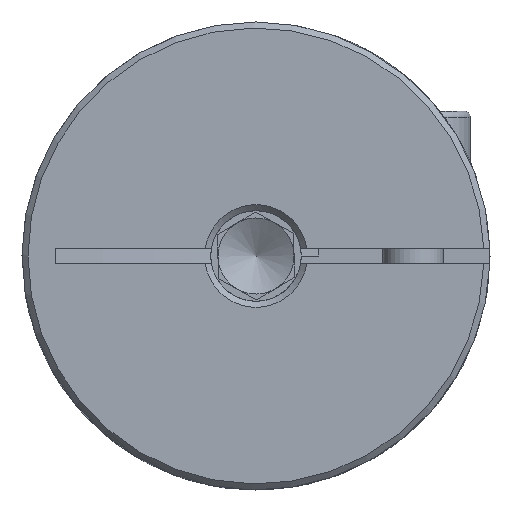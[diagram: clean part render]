
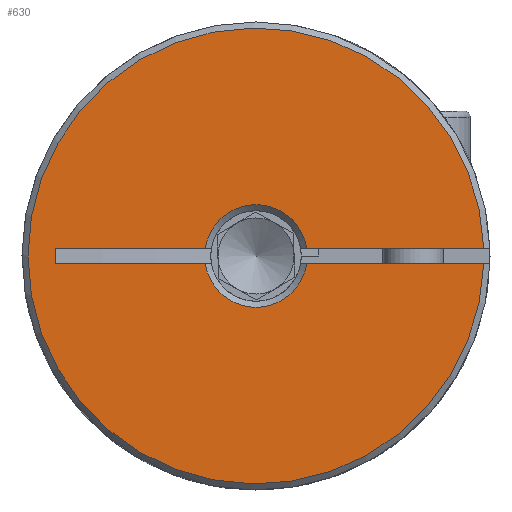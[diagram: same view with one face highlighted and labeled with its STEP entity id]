
A CAD part, left-side view. The second image highlights one B-rep face of the part: STEP entity #630.
In plain terms, the highlighted planar face has unit normal (-1, 0, 0).
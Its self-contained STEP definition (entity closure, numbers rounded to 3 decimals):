
#630 = ADVANCED_FACE( 'NONE', ( #1343 ), #1344, .F. );
#1343 = FACE_OUTER_BOUND( '', #2031, .T. );
#1344 = PLANE( '', #2032 );
#2031 = EDGE_LOOP( '', ( #3202, #3203, #3204, #3205, #3206, #3207, #3208, #3209 ) );
#2032 = AXIS2_PLACEMENT_3D( '', #3210, #3211, #3212 );
#3202 = ORIENTED_EDGE( '', *, *, #3581, .T. );
#3203 = ORIENTED_EDGE( '', *, *, #3482, .T. );
#3204 = ORIENTED_EDGE( '', *, *, #3627, .T. );
#3205 = ORIENTED_EDGE( '', *, *, #3252, .T. );
#3206 = ORIENTED_EDGE( '', *, *, #3437, .F. );
#3207 = ORIENTED_EDGE( '', *, *, #3309, .T. );
#3208 = ORIENTED_EDGE( '', *, *, #3605, .F. );
#3209 = ORIENTED_EDGE( '', *, *, #3546, .T. );
#3210 = CARTESIAN_POINT( '', ( 0., 1.5, 0. ) );
#3211 = DIRECTION( '', ( 1., 0., 0. ) );
#3212 = DIRECTION( '', ( 0., 1., 0. ) );
#3252 = EDGE_CURVE( 'NONE', #3690, #3688, #3691, .T. );
#3309 = EDGE_CURVE( 'NONE', #3783, #3780, #3784, .T. );
#3437 = EDGE_CURVE( 'NONE', #3783, #3688, #3979, .T. );
#3482 = EDGE_CURVE( 'NONE', #4046, #4044, #4047, .T. );
#3546 = EDGE_CURVE( 'NONE', #4129, #4131, #4133, .T. );
#3581 = EDGE_CURVE( 'NONE', #4131, #4046, #4177, .T. );
#3605 = EDGE_CURVE( 'NONE', #4129, #3780, #4206, .T. );
#3627 = EDGE_CURVE( 'NONE', #4044, #3690, #4232, .T. );
#3688 = VERTEX_POINT( 'NONE', #4297 );
#3690 = VERTEX_POINT( 'NONE', #4300 );
#3691 = CIRCLE( '', #4301, 7.55 );
#3780 = VERTEX_POINT( 'NONE', #4409 );
#3783 = VERTEX_POINT( 'NONE', #4412 );
#3784 = CIRCLE( '', #4413, 1.7 );
#3979 = LINE( '', #4632, #4633 );
#4044 = VERTEX_POINT( 'NONE', #4707 );
#4046 = VERTEX_POINT( 'NONE', #4709 );
#4047 = CIRCLE( '', #4710, 1.7 );
#4129 = VERTEX_POINT( 'NONE', #4887 );
#4131 = VERTEX_POINT( 'NONE', #4889 );
#4133 = LINE( '', #4891, #4892 );
#4177 = LINE( '', #4942, #4943 );
#4206 = LINE( '', #4973, #4974 );
#4232 = LINE( '', #5001, #5002 );
#4297 = CARTESIAN_POINT( '', ( 0., -7.546, -0.25 ) );
#4300 = CARTESIAN_POINT( '', ( 0., -7.546, 0.25 ) );
#4301 = AXIS2_PLACEMENT_3D( '', #5064, #5065, #5066 );
#4409 = CARTESIAN_POINT( '', ( 0., 1.682, -0.25 ) );
#4412 = CARTESIAN_POINT( '', ( 0., -1.682, -0.25 ) );
#4413 = AXIS2_PLACEMENT_3D( '', #5149, #5150, #5151 );
#4632 = CARTESIAN_POINT( '', ( 0., 1.5, -0.25 ) );
#4633 = VECTOR( '', #5353, 1000. );
#4707 = CARTESIAN_POINT( '', ( 0., -1.682, 0.25 ) );
#4709 = CARTESIAN_POINT( '', ( 0., 1.682, 0.25 ) );
#4710 = AXIS2_PLACEMENT_3D( '', #5417, #5418, #5419 );
#4887 = CARTESIAN_POINT( '', ( 0., 6.624, -0.25 ) );
#4889 = CARTESIAN_POINT( '', ( 0., 6.624, 0.25 ) );
#4891 = CARTESIAN_POINT( '', ( 0., 6.624, -0.25 ) );
#4892 = VECTOR( '', #5501, 1000. );
#4942 = CARTESIAN_POINT( '', ( 0., 1.5, 0.25 ) );
#4943 = VECTOR( '', #5544, 1000. );
#4973 = CARTESIAN_POINT( '', ( 0., 1.5, -0.25 ) );
#4974 = VECTOR( '', #5567, 1000. );
#5001 = CARTESIAN_POINT( '', ( 0., 1.5, 0.25 ) );
#5002 = VECTOR( '', #5584, 1000. );
#5064 = CARTESIAN_POINT( '', ( 0., 0., 0. ) );
#5065 = DIRECTION( '', ( -1., 0., 0. ) );
#5066 = DIRECTION( '', ( 0., 0., -1. ) );
#5149 = CARTESIAN_POINT( '', ( 0., 0., 0. ) );
#5150 = DIRECTION( '', ( 1., 0., 0. ) );
#5151 = DIRECTION( '', ( 0., 0., -1. ) );
#5353 = DIRECTION( '', ( 0., -1., 0. ) );
#5417 = CARTESIAN_POINT( '', ( 0., 0., 0. ) );
#5418 = DIRECTION( '', ( 1., 0., 0. ) );
#5419 = DIRECTION( '', ( 0., 0., -1. ) );
#5501 = DIRECTION( '', ( 0., 0., 1. ) );
#5544 = DIRECTION( '', ( 0., -1., 0. ) );
#5567 = DIRECTION( '', ( 0., -1., 0. ) );
#5584 = DIRECTION( '', ( 0., -1., 0. ) );
